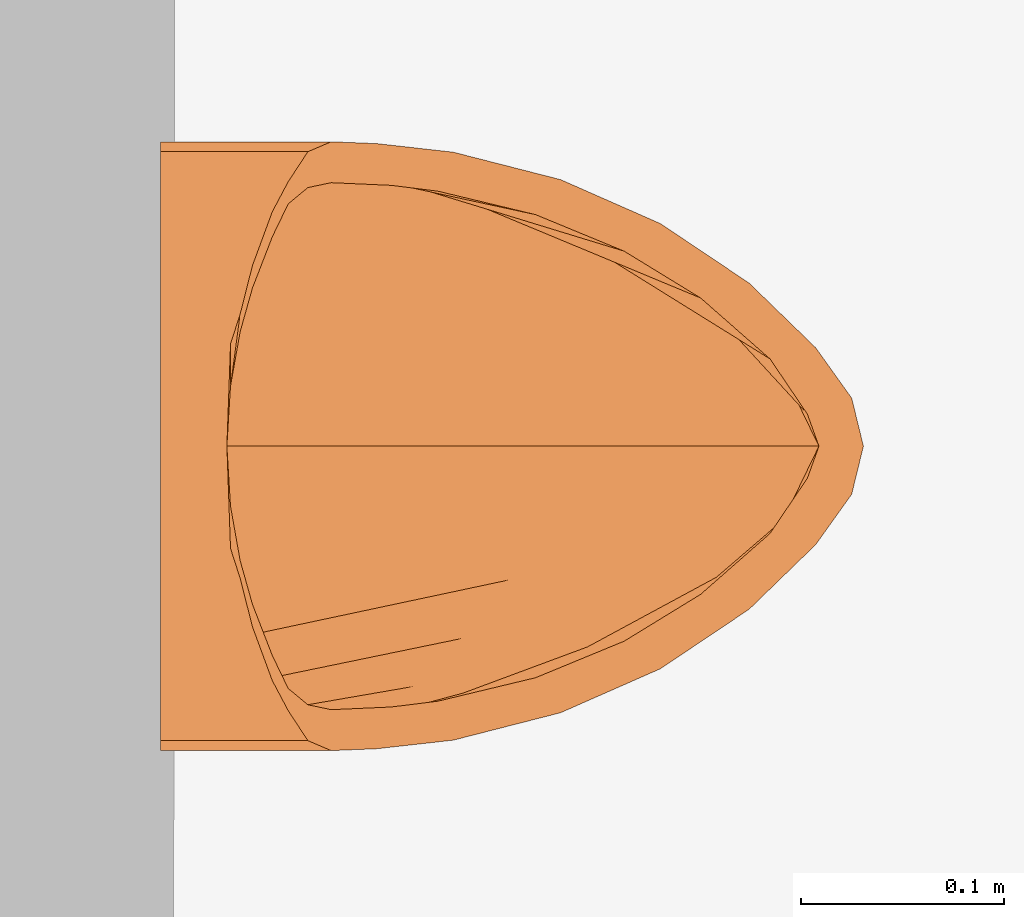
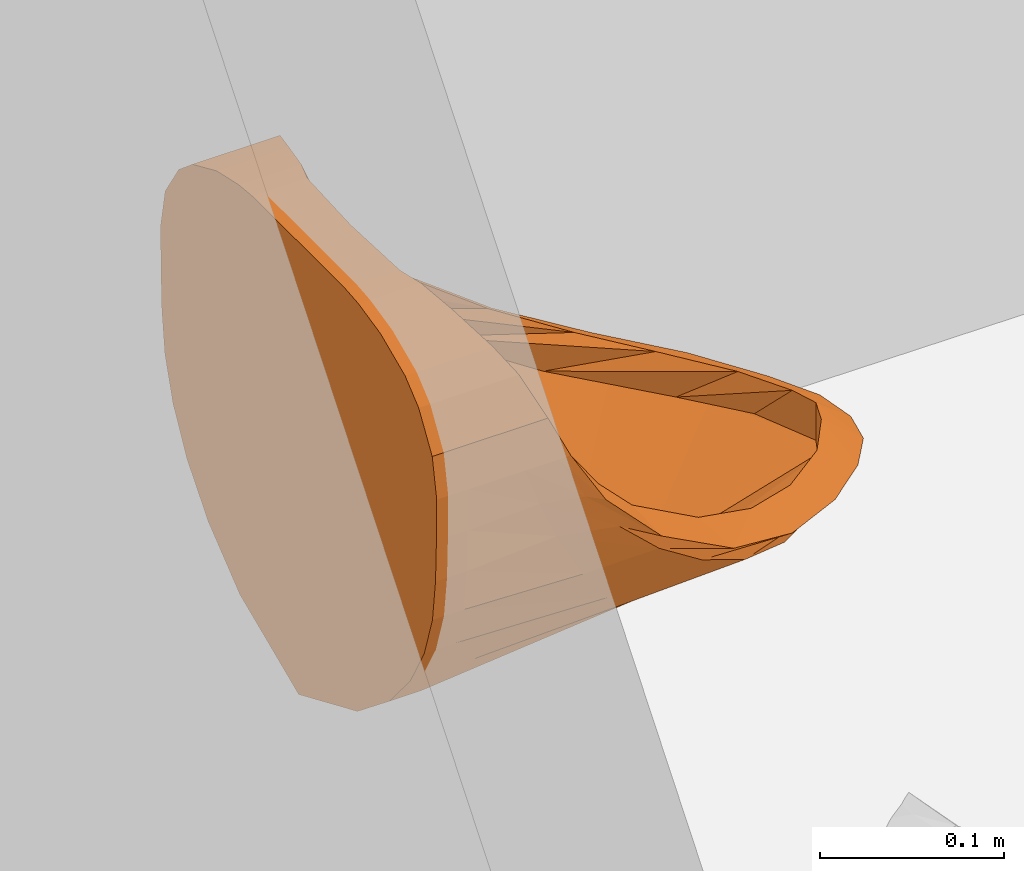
# One storey, part 196 of 196: 1 proxy.
"""IFC2X3 building model written with IfcOpenShell, lengths in metres."""

from ifc_helpers import new_model, entity, si_unit, converted_unit, derived_unit, money_unit, direction, frame, origin_with_axes, place, context, subcontext, project, spatial, open_shell, faceted_brep, surface_model, type_object, element, save


model = new_model("IFC2X3")

# Units and contexts
model_context = context("Model", 3, precision=1e-05, world=origin_with_axes(), true_north=direction((0.0, 1.0)))
body_context = subcontext(model_context, "Body", "Model", "MODEL_VIEW")
ifc_project = project(units=[si_unit("LENGTHUNIT", "METRE"), si_unit("AREAUNIT", "SQUARE_METRE"), si_unit("VOLUMEUNIT", "CUBIC_METRE"), converted_unit("PLANEANGLEUNIT", "DEGREE", entity("IfcPlaneAngleMeasure", 0.0174532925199), si_unit("PLANEANGLEUNIT", "RADIAN"), dimensions=[0, 0, 0, 0, 0, 0, 0]), money_unit("EUR"), converted_unit("TIMEUNIT", "Year", entity("IfcTimeMeasure", 31556926.0), si_unit("TIMEUNIT", "SECOND"), dimensions=[0, 0, 1, 0, 0, 0, 0]), si_unit("MASSUNIT", "GRAM", prefix="KILO"), si_unit("THERMODYNAMICTEMPERATUREUNIT", "DEGREE_CELSIUS"), si_unit("LUMINOUSINTENSITYUNIT", "LUMEN"), si_unit("ENERGYUNIT", "JOULE", prefix="MEGA"), derived_unit("THERMALCONDUCTANCEUNIT", [(si_unit("POWERUNIT", "WATT"), 1), (si_unit("LENGTHUNIT", "METRE"), -1), (si_unit("THERMODYNAMICTEMPERATUREUNIT", "KELVIN"), -1)]), derived_unit("SPECIFICHEATCAPACITYUNIT", [(si_unit("ENERGYUNIT", "JOULE"), 1), (si_unit("MASSUNIT", "GRAM", prefix="KILO"), -1), (si_unit("THERMODYNAMICTEMPERATUREUNIT", "KELVIN"), -1)]), derived_unit("MASSDENSITYUNIT", [(si_unit("MASSUNIT", "GRAM", prefix="KILO"), 1), (si_unit("VOLUMEUNIT", "CUBIC_METRE"), -1)])], contexts=[model_context])

# Site, building, storey
site_placement = place(None, origin_with_axes())
site = spatial("IfcSite", under=ifc_project, at=site_placement, Name="Gelände", CompositionType="ELEMENT")
building_placement = place(site_placement, origin_with_axes())
building = spatial("IfcBuilding", under=site, at=building_placement, Name="Gebäude", CompositionType="ELEMENT")
storey_placement = place(building_placement, frame((0.0, 0.0, -3.0), z_axis=(0.0, 0.0, 1.0), x_axis=(1.0, 0.0, 0.0)))
storey = spatial("IfcBuildingStorey", under=building, at=storey_placement, Name="KELLERGESCHOSS", CompositionType="ELEMENT", Elevation=-3.0)

# Proxy
building_element_proxy_type = type_object("IfcBuildingElementProxyType", Name="Urinal 1 25", PredefinedType="NOTDEFINED")
proxy_placement = place(storey_placement, frame((13.3731772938, 25.007597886, -0.154034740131), z_axis=(0.0, 0.0, 1.0), x_axis=(0.0, 1.0, 0.0)))
element("IfcBuildingElementProxy", 1, at=proxy_placement, inside=storey, type_object=building_element_proxy_type, Name="Objekt-00220", context=body_context, shape_type="SurfaceModel", body=[
    faceted_brep([(0.0, 0.00653460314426, 1.0), (-0.0503710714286, 0.00653460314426, 0.999898), (-0.0503710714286, 0.0, 0.999898), (0.0, 0.0, 1.0), (0.0503710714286, 0.00653460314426, 0.999898), (0.0650260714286, 0.00653460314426, 0.998525), (0.0890367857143, 0.00653460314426, 0.993198), (0.115533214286, 0.00653460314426, 0.981535), (0.130329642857, 0.00653460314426, 0.969181), (0.1451025, 0.00653460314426, 0.945871), (0.15, 0.00653460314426, 0.920148), (0.149671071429, 0.00653460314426, 0.89263), (0.148683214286, 0.00653460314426, 0.865111), (0.145370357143, 0.00653460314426, 0.837593), (0.136527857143, 0.00653460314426, 0.810074), (0.121330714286, 0.00653460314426, 0.782556), (0.0982478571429, 0.00653460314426, 0.755037), (0.0638796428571, 0.00653460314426, 0.727519), (0.0, 0.00653460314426, 0.7), (-0.0638796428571, 0.00653460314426, 0.727519), (-0.0982478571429, 0.00653460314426, 0.755037), (-0.121330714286, 0.00653460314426, 0.782556), (-0.136527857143, 0.00653460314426, 0.810074), (-0.145370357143, 0.00653460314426, 0.837593), (-0.148683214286, 0.00653460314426, 0.865111), (-0.149671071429, 0.00653460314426, 0.89263), (-0.15, 0.00653460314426, 0.920148), (-0.1451025, 0.00653460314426, 0.945871), (-0.130329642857, 0.00653460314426, 0.969181), (-0.115533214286, 0.00653460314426, 0.981535), (-0.0890367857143, 0.00653460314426, 0.993198), (-0.0650260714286, 0.00653460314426, 0.998525), (-0.0650260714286, 0.0, 0.998525), (-0.0890367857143, 0.0, 0.993198), (-0.115533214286, 0.0, 0.981535), (-0.130329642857, 0.0, 0.969181), (-0.1451025, 0.0, 0.945871), (-0.15, 0.0, 0.920148), (-0.149671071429, 0.0, 0.89263), (-0.148683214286, 0.0, 0.865111), (-0.145370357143, 0.0, 0.837593), (-0.136527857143, 0.0, 0.810074), (-0.121330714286, 0.0, 0.782556), (-0.0982478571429, 0.0, 0.755037), (-0.0638796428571, 0.0, 0.727519), (0.0, 0.0, 0.7), (0.0638796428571, 0.0, 0.727519), (0.0982478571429, 0.0, 0.755037), (0.121330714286, 0.0, 0.782556), (0.136527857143, 0.0, 0.810074), (0.145370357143, 0.0, 0.837593), (0.148683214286, 0.0, 0.865111), (0.149671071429, 0.0, 0.89263), (0.15, 0.0, 0.920148), (0.1451025, 0.0, 0.945871), (0.130329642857, 0.0, 0.969181), (0.115533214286, 0.0, 0.981535), (0.0890367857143, 0.0, 0.993198), (0.0650260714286, 0.0, 0.998525), (0.0503710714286, 0.0, 0.999898)], [[[0, 1, 2, 3]], [[0, 4, 5, 6, 7, 8, 9, 10, 11, 12, 13, 14, 15, 16, 17, 18, 19, 20, 21, 22, 23, 24, 25, 26, 27, 28, 29, 30, 31, 1]], [[1, 31, 32, 2]], [[3, 2, 32, 33, 34, 35, 36, 37, 38, 39, 40, 41, 42, 43, 44, 45, 46, 47, 48, 49, 50, 51, 52, 53, 54, 55, 56, 57, 58, 59]], [[4, 0, 3, 59]], [[5, 4, 59, 58]], [[6, 5, 58, 57]], [[7, 6, 57, 56]], [[8, 7, 56, 55]], [[9, 8, 55, 54]], [[10, 9, 54, 53]], [[11, 10, 53, 52]], [[12, 11, 52, 51]], [[13, 12, 51, 50]], [[14, 13, 50, 49]], [[15, 14, 49, 48]], [[16, 15, 48, 47]], [[17, 16, 47, 46]], [[18, 17, 46, 45]], [[19, 18, 45, 44]], [[20, 19, 44, 43]], [[21, 20, 43, 42]], [[22, 21, 42, 41]], [[23, 22, 41, 40]], [[24, 23, 40, 39]], [[25, 24, 39, 38]], [[26, 25, 38, 37]], [[27, 26, 37, 36]], [[28, 27, 36, 35]], [[29, 28, 35, 34]], [[30, 29, 34, 33]], [[31, 30, 33, 32]]]),
    surface_model("IfcShellBasedSurfaceModel", [(0.0, 0.0, 1.0), (0.0, -0.0130692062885, 1.0), (-0.0503710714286, -0.0130692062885, 0.999898), (0.0503710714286, 0.0, 0.999898), (-0.0503710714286, -0.0196482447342, 0.999898), (-0.0503710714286, 0.0, 0.999898), (0.0503710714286, -0.0130692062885, 0.999898), (0.0, -0.0196038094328, 1.0), (-0.0650260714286, -0.0202481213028, 0.998525), (-0.0650260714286, -0.0130692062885, 0.998525), (0.0650260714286, 0.0, 0.998525), (-0.0503710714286, -0.0251516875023, 0.999898), (-0.0650260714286, -0.0259985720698, 0.998525), (-0.0650260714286, 0.0, 0.998525), (0.0650260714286, -0.0130692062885, 0.998525), (0.0503710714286, -0.0196482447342, 0.999898), (0.0, -0.0250837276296, 1.0), (-0.0890367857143, -0.0294945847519, 0.993198), (-0.0890367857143, -0.0225417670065, 0.993198), (-0.0890367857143, -0.0130692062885, 0.993198), (0.0890367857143, 0.0, 0.993198), (-0.0503710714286, -0.0279288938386, 0.999898), (-0.0650260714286, -0.0326638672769, 0.998525), (-0.0890367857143, -0.0387515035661, 0.993198), (-0.0890367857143, 0.0, 0.993198), (0.0890367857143, -0.0130692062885, 0.993198), (0.0650260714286, -0.0202481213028, 0.998525), (0.0503710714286, -0.0251516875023, 0.999898), (0.0, -0.0261384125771, 1.0), (-0.115533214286, -0.0485272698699, 0.981535), (-0.115533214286, -0.0367819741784, 0.981535), (-0.115533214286, -0.0273826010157, 0.981535), (-0.115533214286, -0.0130692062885, 0.981535), (0.115533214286, 0.0, 0.981535), (-0.115533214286, 0.0, 0.981535), (0.115533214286, -0.0130692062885, 0.981535), (0.0890367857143, -0.0225417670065, 0.993198), (0.0650260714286, -0.0259985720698, 0.998525), (0.0503710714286, -0.0279288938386, 0.999898), (-0.130329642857, -0.0563648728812, 0.969181), (-0.130329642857, -0.0441307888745, 0.969181), (-0.130329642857, -0.0322443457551, 0.969181), (-0.130329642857, -0.0130692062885, 0.969181), (0.130329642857, 0.0, 0.969181), (-0.130329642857, 0.0, 0.969181), (0.130329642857, -0.0130692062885, 0.969181), (0.115533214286, -0.0273826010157, 0.981535), (0.0890367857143, -0.0294945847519, 0.993198), (0.0650260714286, -0.0326638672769, 0.998525), (-0.1451025, -0.0660517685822, 0.945871), (-0.1451025, -0.0569935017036, 0.945871), (-0.1451025, -0.0406844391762, 0.945871), (-0.1451025, -0.0130692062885, 0.945871), (0.1451025, 0.0, 0.945871), (-0.1451025, 0.0, 0.945871), (0.1451025, -0.0130692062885, 0.945871), (0.130329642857, -0.0322443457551, 0.969181), (0.115533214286, -0.0367819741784, 0.981535), (0.0890367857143, -0.0387515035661, 0.993198), (-0.15, -0.0775422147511, 0.920148), (-0.15, -0.0697242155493, 0.920148), (-0.15, -0.0489062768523, 0.920148), (-0.15, -0.0130692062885, 0.920148), (0.15, 0.0, 0.920148), (-0.15, 0.0, 0.920148), (0.15, -0.0130692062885, 0.920148), (0.1451025, -0.0406844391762, 0.945871), (0.130329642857, -0.0441307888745, 0.969181), (0.115533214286, -0.0485272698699, 0.981535), (-0.149088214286, -0.100064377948, 0.882346), (-0.148938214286, -0.0874107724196, 0.888729), (-0.148493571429, -0.0585108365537, 0.893637), (-0.149671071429, -0.0130692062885, 0.89263), (0.149671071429, 0.0, 0.89263), (-0.149671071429, 0.0, 0.89263), (0.149671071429, -0.0130692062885, 0.89263), (0.15, -0.0489062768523, 0.920148), (0.1451025, -0.0569935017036, 0.945871), (0.130329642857, -0.0563648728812, 0.969181), (-0.144867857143, -0.137694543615, 0.842424), (-0.146004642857, -0.110211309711, 0.859303), (-0.1458225, -0.0708965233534, 0.866246), (-0.148683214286, -0.0130692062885, 0.865111), (0.148683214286, 0.0, 0.865111), (-0.148683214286, 0.0, 0.865111), (0.148683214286, -0.0130692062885, 0.865111), (0.148493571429, -0.0585108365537, 0.893637), (0.15, -0.0697242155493, 0.920148), (0.1451025, -0.0660517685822, 0.945871), (-0.131359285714, -0.19053465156, 0.807653), (-0.1416, -0.137750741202, 0.832354), (-0.137941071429, -0.0920725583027, 0.829001), (-0.145370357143, -0.0130692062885, 0.837593), (0.145370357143, 0.0, 0.837593), (-0.145370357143, 0.0, 0.837593), (0.145370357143, -0.0130692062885, 0.837593), (0.1458225, -0.0708965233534, 0.866246), (0.148938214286, -0.0874107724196, 0.888729), (0.15, -0.0775422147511, 0.920148), (-0.109682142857, -0.239758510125, 0.787417), (-0.133041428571, -0.169575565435, 0.808327), (-0.118344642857, -0.118446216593, 0.792232), (-0.136527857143, -0.0130692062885, 0.810074), (0.136527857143, 0.0, 0.810074), (-0.136527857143, 0.0, 0.810074), (0.136527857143, -0.0130692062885, 0.810074), (0.137941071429, -0.0920725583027, 0.829001), (0.146004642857, -0.110211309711, 0.859303), (0.149088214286, -0.100064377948, 0.882346), (-0.0803528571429, -0.283498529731, 0.776444), (-0.1187925, -0.205161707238, 0.787618), (-0.09477, -0.141846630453, 0.76517), (-0.121330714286, -0.0130692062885, 0.782556), (0.121330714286, 0.0, 0.782556), (-0.121330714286, 0.0, 0.782556), (0.121330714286, -0.0130692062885, 0.782556), (0.118344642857, -0.118446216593, 0.792232), (0.1416, -0.137750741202, 0.832354), (0.144867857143, -0.137694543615, 0.842424), (-0.0486064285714, -0.316210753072, 0.768676), (-0.0942653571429, -0.243921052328, 0.770567), (-0.0659742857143, -0.164834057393, 0.742159), (-0.0982478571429, -0.0130692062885, 0.755037), (0.0982478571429, 0.0, 0.755037), (-0.0982478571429, 0.0, 0.755037), (0.0982478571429, -0.0130692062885, 0.755037), (0.09477, -0.141846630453, 0.76517), (0.133041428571, -0.169575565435, 0.808327), (0.131359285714, -0.19053465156, 0.807653), (-0.0237192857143, -0.334001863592, 0.765137), (-0.0589767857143, -0.285215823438, 0.757456), (-0.0335507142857, -0.186930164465, 0.724265), (-0.0638796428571, -0.0130692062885, 0.727519), (0.0638796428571, 0.0, 0.727519), (-0.0638796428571, 0.0, 0.727519), (0.0638796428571, -0.0130692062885, 0.727519), (0.0659742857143, -0.164834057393, 0.742159), (0.1187925, -0.205161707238, 0.787618), (0.109682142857, -0.239758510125, 0.787417), (0.0, -0.339799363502, 0.763229), (0.0, -0.32836511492, 0.748501), (0.0, -0.206895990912, 0.712313), (0.0, -0.0130692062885, 0.7), (0.0, 0.0, 0.7), (0.0335507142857, -0.186930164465, 0.724265), (0.0942653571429, -0.243921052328, 0.770567), (0.0803528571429, -0.283498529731, 0.776444), (0.0237192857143, -0.334001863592, 0.765137), (0.0589767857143, -0.285215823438, 0.757456), (0.0486064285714, -0.316210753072, 0.768676)], [open_shell([[[0, 1, 2]], [[3, 1, 0]], [[1, 4, 2]], [[0, 2, 5]], [[3, 6, 1]], [[1, 7, 4]], [[2, 4, 8]], [[5, 2, 9]], [[10, 6, 3]], [[6, 7, 1]], [[7, 11, 4]], [[4, 12, 8]], [[2, 8, 9]], [[5, 9, 13]], [[10, 14, 6]], [[6, 15, 7]], [[7, 16, 11]], [[4, 11, 12]], [[8, 12, 17]], [[9, 8, 18]], [[13, 9, 19]], [[20, 14, 10]], [[14, 15, 6]], [[15, 16, 7]], [[16, 21, 11]], [[11, 22, 12]], [[12, 23, 17]], [[8, 17, 18]], [[9, 18, 19]], [[13, 19, 24]], [[20, 25, 14]], [[14, 26, 15]], [[15, 27, 16]], [[16, 28, 21]], [[11, 21, 22]], [[12, 22, 23]], [[17, 23, 29]], [[18, 17, 30]], [[19, 18, 31]], [[24, 19, 32]], [[33, 25, 20]], [[25, 26, 14]], [[26, 27, 15]], [[27, 28, 16]], [[17, 29, 30]], [[18, 30, 31]], [[19, 31, 32]], [[24, 32, 34]], [[33, 35, 25]], [[25, 36, 26]], [[26, 37, 27]], [[27, 38, 28]], [[30, 29, 39]], [[31, 30, 40]], [[32, 31, 41]], [[34, 32, 42]], [[43, 35, 33]], [[35, 36, 25]], [[36, 37, 26]], [[37, 38, 27]], [[30, 39, 40]], [[31, 40, 41]], [[32, 41, 42]], [[34, 42, 44]], [[43, 45, 35]], [[35, 46, 36]], [[36, 47, 37]], [[37, 48, 38]], [[40, 39, 49]], [[41, 40, 50]], [[42, 41, 51]], [[44, 42, 52]], [[53, 45, 43]], [[45, 46, 35]], [[46, 47, 36]], [[47, 48, 37]], [[40, 49, 50]], [[41, 50, 51]], [[42, 51, 52]], [[44, 52, 54]], [[53, 55, 45]], [[45, 56, 46]], [[46, 57, 47]], [[47, 58, 48]], [[50, 49, 59]], [[51, 50, 60]], [[52, 51, 61]], [[54, 52, 62]], [[63, 55, 53]], [[55, 56, 45]], [[56, 57, 46]], [[57, 58, 47]], [[50, 59, 60]], [[51, 60, 61]], [[52, 61, 62]], [[54, 62, 64]], [[63, 65, 55]], [[55, 66, 56]], [[56, 67, 57]], [[57, 68, 58]], [[60, 59, 69]], [[61, 60, 70]], [[62, 61, 71]], [[64, 62, 72]], [[73, 65, 63]], [[65, 66, 55]], [[66, 67, 56]], [[67, 68, 57]], [[60, 69, 70]], [[61, 70, 71]], [[62, 71, 72]], [[64, 72, 74]], [[73, 75, 65]], [[65, 76, 66]], [[66, 77, 67]], [[67, 78, 68]], [[70, 69, 79]], [[71, 70, 80]], [[72, 71, 81]], [[74, 72, 82]], [[83, 75, 73]], [[75, 76, 65]], [[76, 77, 66]], [[77, 78, 67]], [[70, 79, 80]], [[71, 80, 81]], [[72, 81, 82]], [[74, 82, 84]], [[83, 85, 75]], [[75, 86, 76]], [[76, 87, 77]], [[77, 88, 78]], [[80, 79, 89]], [[81, 80, 90]], [[82, 81, 91]], [[84, 82, 92]], [[93, 85, 83]], [[85, 86, 75]], [[86, 87, 76]], [[87, 88, 77]], [[80, 89, 90]], [[81, 90, 91]], [[82, 91, 92]], [[84, 92, 94]], [[93, 95, 85]], [[85, 96, 86]], [[86, 97, 87]], [[87, 98, 88]], [[90, 89, 99]], [[91, 90, 100]], [[92, 91, 101]], [[94, 92, 102]], [[103, 95, 93]], [[95, 96, 85]], [[96, 97, 86]], [[97, 98, 87]], [[90, 99, 100]], [[91, 100, 101]], [[92, 101, 102]], [[94, 102, 104]], [[103, 105, 95]], [[95, 106, 96]], [[96, 107, 97]], [[97, 108, 98]], [[100, 99, 109]], [[101, 100, 110]], [[102, 101, 111]], [[104, 102, 112]], [[113, 105, 103]], [[105, 106, 95]], [[106, 107, 96]], [[107, 108, 97]], [[100, 109, 110]], [[101, 110, 111]], [[102, 111, 112]], [[104, 112, 114]], [[113, 115, 105]], [[105, 116, 106]], [[106, 117, 107]], [[107, 118, 108]], [[110, 109, 119]], [[111, 110, 120]], [[112, 111, 121]], [[114, 112, 122]], [[123, 115, 113]], [[115, 116, 105]], [[116, 117, 106]], [[117, 118, 107]], [[110, 119, 120]], [[111, 120, 121]], [[112, 121, 122]], [[114, 122, 124]], [[123, 125, 115]], [[115, 126, 116]], [[116, 127, 117]], [[117, 128, 118]], [[120, 119, 129]], [[121, 120, 130]], [[122, 121, 131]], [[124, 122, 132]], [[133, 125, 123]], [[125, 126, 115]], [[126, 127, 116]], [[127, 128, 117]], [[120, 129, 130]], [[121, 130, 131]], [[122, 131, 132]], [[124, 132, 134]], [[133, 135, 125]], [[125, 136, 126]], [[126, 137, 127]], [[127, 138, 128]], [[130, 129, 139]], [[131, 130, 140]], [[132, 131, 141]], [[134, 132, 142]], [[143, 135, 133]], [[135, 136, 125]], [[136, 137, 126]], [[137, 138, 127]], [[130, 139, 140]], [[131, 140, 141]], [[132, 141, 142]], [[134, 142, 143]], [[143, 142, 135]], [[135, 144, 136]], [[136, 145, 137]], [[137, 146, 138]], [[140, 139, 147]], [[141, 140, 148]], [[142, 141, 144]], [[142, 144, 135]], [[144, 145, 136]], [[145, 146, 137]], [[140, 147, 148]], [[141, 148, 144]], [[144, 148, 145]], [[145, 149, 146]], [[148, 147, 149]], [[148, 149, 145]]])]),
    surface_model("IfcShellBasedSurfaceModel", [(0.0, -0.0261384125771, 1.0), (0.0, -0.0261384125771, 0.99), (-0.0295992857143, -0.0279288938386, 0.988966), (0.0503710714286, -0.0279288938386, 0.999898), (-0.0503710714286, -0.0279288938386, 0.999898), (0.0295992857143, -0.0279288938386, 0.988966), (-0.056325, -0.0326638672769, 0.98626), (0.0650260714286, -0.0326638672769, 0.998525), (-0.0650260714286, -0.0326638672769, 0.998525), (0.056325, -0.0326638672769, 0.98626), (-0.0779764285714, -0.0387515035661, 0.98082), (0.0890367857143, -0.0387515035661, 0.993198), (-0.0890367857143, -0.0387515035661, 0.993198), (0.0779764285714, -0.0387515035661, 0.98082), (-0.103178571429, -0.0485272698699, 0.968491), (0.115533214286, -0.0485272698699, 0.981535), (-0.115533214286, -0.0485272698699, 0.981535), (0.103178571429, -0.0485272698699, 0.968491), (-0.119395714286, -0.0563648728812, 0.952746), (0.130329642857, -0.0563648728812, 0.969181), (-0.130329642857, -0.0563648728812, 0.969181), (0.119395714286, -0.0563648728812, 0.952746), (-0.127429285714, -0.0660517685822, 0.936322), (0.1451025, -0.0660517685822, 0.945871), (-0.1451025, -0.0660517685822, 0.945871), (0.127429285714, -0.0660517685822, 0.936322), (-0.129833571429, -0.0775422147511, 0.920148), (0.15, -0.0775422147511, 0.920148), (-0.15, -0.0775422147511, 0.920148), (0.129833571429, -0.0775422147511, 0.920148), (-0.128517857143, -0.107137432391, 0.87807), (0.149088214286, -0.100064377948, 0.882346), (-0.149088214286, -0.100064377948, 0.882346), (0.128517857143, -0.107137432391, 0.87807), (-0.125659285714, -0.130092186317, 0.854025), (0.144867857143, -0.137694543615, 0.842424), (-0.144867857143, -0.137694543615, 0.842424), (0.125659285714, -0.130092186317, 0.854025), (-0.114079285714, -0.178295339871, 0.821972), (0.131359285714, -0.19053465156, 0.807653), (-0.131359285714, -0.19053465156, 0.807653), (0.114079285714, -0.178295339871, 0.821972), (-0.09609, -0.221899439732, 0.801839), (0.109682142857, -0.239758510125, 0.787417), (-0.109682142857, -0.239758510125, 0.787417), (0.09609, -0.221899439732, 0.801839), (-0.0730071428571, -0.259593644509, 0.790008), (0.0803528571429, -0.283498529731, 0.776444), (-0.0803528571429, -0.283498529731, 0.776444), (0.0730071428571, -0.259593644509, 0.790008), (-0.0429910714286, -0.293789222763, 0.783002), (0.0486064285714, -0.316210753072, 0.768676), (-0.0486064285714, -0.316210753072, 0.768676), (0.0429910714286, -0.293789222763, 0.783002), (-0.0157767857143, -0.312189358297, 0.78057), (0.0237192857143, -0.334001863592, 0.765137), (-0.0237192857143, -0.334001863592, 0.765137), (0.0157767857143, -0.312189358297, 0.78057), (0.0, -0.317880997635, 0.78), (0.0, -0.339799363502, 0.763229)], [open_shell([[[0, 1, 2]], [[3, 1, 0]], [[0, 2, 4]], [[3, 5, 1]], [[4, 2, 6]], [[7, 5, 3]], [[4, 6, 8]], [[7, 9, 5]], [[8, 6, 10]], [[11, 9, 7]], [[8, 10, 12]], [[11, 13, 9]], [[12, 10, 14]], [[15, 13, 11]], [[12, 14, 16]], [[15, 17, 13]], [[16, 14, 18]], [[19, 17, 15]], [[16, 18, 20]], [[19, 21, 17]], [[20, 18, 22]], [[23, 21, 19]], [[20, 22, 24]], [[23, 25, 21]], [[24, 22, 26]], [[27, 25, 23]], [[24, 26, 28]], [[27, 29, 25]], [[28, 26, 30]], [[31, 29, 27]], [[28, 30, 32]], [[31, 33, 29]], [[32, 30, 34]], [[35, 33, 31]], [[32, 34, 36]], [[35, 37, 33]], [[36, 34, 38]], [[39, 37, 35]], [[36, 38, 40]], [[39, 41, 37]], [[40, 38, 42]], [[43, 41, 39]], [[40, 42, 44]], [[43, 45, 41]], [[44, 42, 46]], [[47, 45, 43]], [[44, 46, 48]], [[47, 49, 45]], [[48, 46, 50]], [[51, 49, 47]], [[48, 50, 52]], [[51, 53, 49]], [[52, 50, 54]], [[55, 53, 51]], [[52, 54, 56]], [[55, 57, 53]], [[56, 54, 58]], [[59, 57, 55]], [[56, 58, 59]], [[59, 58, 57]]])]),
    surface_model("IfcShellBasedSurfaceModel", [(0.0, -0.0261384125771, 0.99), (0.0, -0.0187347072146, 0.965651), (-0.0274382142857, -0.021751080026, 0.964581), (0.0295992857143, -0.0279288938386, 0.988966), (-0.0295992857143, -0.0279288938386, 0.988966), (0.0274382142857, -0.021751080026, 0.964581), (-0.0502746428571, -0.0243361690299, 0.962521), (0.056325, -0.0326638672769, 0.98626), (-0.056325, -0.0326638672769, 0.98626), (0.0502746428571, -0.0243361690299, 0.962521), (-0.0711675, -0.026107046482, 0.959712), (0.0779764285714, -0.0387515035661, 0.98082), (-0.0779764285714, -0.0387515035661, 0.98082), (0.0711675, -0.026107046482, 0.959712), (-0.0919746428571, -0.0288685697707, 0.954245), (0.103178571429, -0.0485272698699, 0.968491), (-0.103178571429, -0.0485272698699, 0.968491), (0.0919746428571, -0.0288685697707, 0.954245), (-0.111946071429, -0.0324848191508, 0.945674), (0.119395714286, -0.0563648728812, 0.952746), (-0.119395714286, -0.0563648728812, 0.952746), (0.111946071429, -0.0324848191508, 0.945674), (-0.123648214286, -0.0362186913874, 0.937494), (0.127429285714, -0.0660517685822, 0.936322), (-0.127429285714, -0.0660517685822, 0.936322), (0.123648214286, -0.0362186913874, 0.937494), (-0.136245, -0.0420227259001, 0.920148), (0.129833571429, -0.0775422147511, 0.920148), (-0.129833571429, -0.0775422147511, 0.920148), (0.136245, -0.0420227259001, 0.920148), (-0.136804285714, -0.0577959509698, 0.892365), (0.128517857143, -0.107137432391, 0.87807), (-0.128517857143, -0.107137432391, 0.87807), (0.136804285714, -0.0577959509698, 0.892365), (-0.135535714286, -0.0791379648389, 0.864684), (0.125659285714, -0.130092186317, 0.854025), (-0.125659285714, -0.130092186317, 0.854025), (0.135535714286, -0.0791379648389, 0.864684), (-0.131289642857, -0.106915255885, 0.837549), (0.114079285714, -0.178295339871, 0.821972), (-0.114079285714, -0.178295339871, 0.821972), (0.131289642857, -0.106915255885, 0.837549), (-0.121640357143, -0.142619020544, 0.811391), (0.09609, -0.221899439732, 0.801839), (-0.09609, -0.221899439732, 0.801839), (0.121640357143, -0.142619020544, 0.811391), (-0.0988671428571, -0.203927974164, 0.780769), (0.0730071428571, -0.259593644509, 0.790008), (-0.0730071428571, -0.259593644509, 0.790008), (0.0988671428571, -0.203927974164, 0.780769), (-0.0645653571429, -0.267380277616, 0.762219), (0.0429910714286, -0.293789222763, 0.783002), (-0.0429910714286, -0.293789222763, 0.783002), (0.0645653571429, -0.267380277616, 0.762219), (-0.0362764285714, -0.300275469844, 0.756815), (0.0157767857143, -0.312189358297, 0.78057), (-0.0157767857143, -0.312189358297, 0.78057), (0.0362764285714, -0.300275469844, 0.756815), (0.0, -0.317880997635, 0.755), (0.0, -0.317880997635, 0.78)], [open_shell([[[0, 1, 2]], [[3, 1, 0]], [[0, 2, 4]], [[3, 5, 1]], [[4, 2, 6]], [[7, 5, 3]], [[4, 6, 8]], [[7, 9, 5]], [[8, 6, 10]], [[11, 9, 7]], [[8, 10, 12]], [[11, 13, 9]], [[12, 10, 14]], [[15, 13, 11]], [[12, 14, 16]], [[15, 17, 13]], [[16, 14, 18]], [[19, 17, 15]], [[16, 18, 20]], [[19, 21, 17]], [[20, 18, 22]], [[23, 21, 19]], [[20, 22, 24]], [[23, 25, 21]], [[24, 22, 26]], [[27, 25, 23]], [[24, 26, 28]], [[27, 29, 25]], [[28, 26, 30]], [[31, 29, 27]], [[28, 30, 32]], [[31, 33, 29]], [[32, 30, 34]], [[35, 33, 31]], [[32, 34, 36]], [[35, 37, 33]], [[36, 34, 38]], [[39, 37, 35]], [[36, 38, 40]], [[39, 41, 37]], [[40, 38, 42]], [[43, 41, 39]], [[40, 42, 44]], [[43, 45, 41]], [[44, 42, 46]], [[47, 45, 43]], [[44, 46, 48]], [[47, 49, 45]], [[48, 46, 50]], [[51, 49, 47]], [[48, 50, 52]], [[51, 53, 49]], [[52, 50, 54]], [[55, 53, 51]], [[52, 54, 56]], [[55, 57, 53]], [[56, 54, 58]], [[59, 57, 55]], [[56, 58, 59]], [[59, 58, 57]]])]),
])

save(model, "model.ifc")
